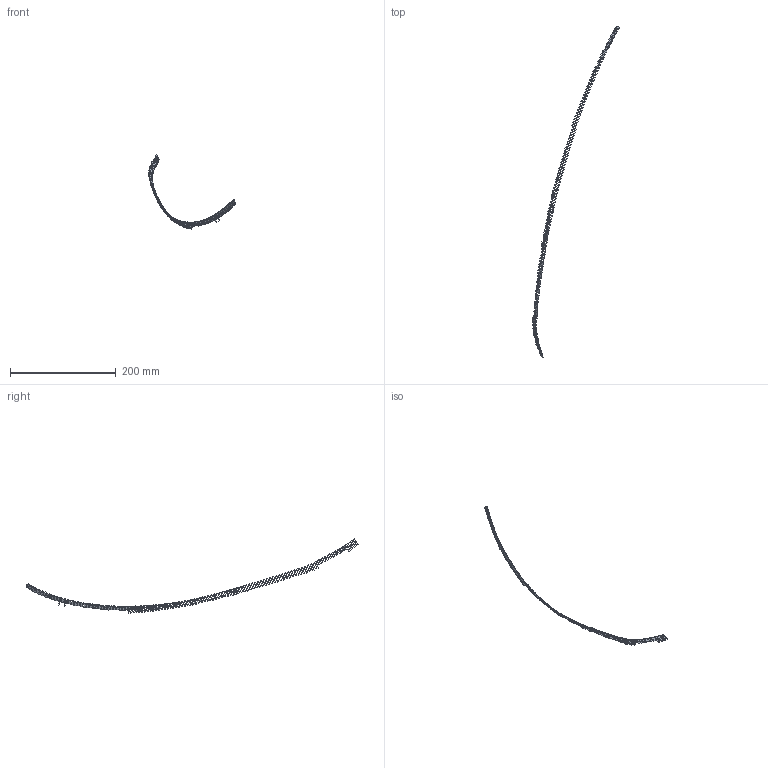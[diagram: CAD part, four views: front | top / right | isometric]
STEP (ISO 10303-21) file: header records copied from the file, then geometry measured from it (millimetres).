
FILE_DESCRIPTION(('FreeCAD Model'),'2;1');
FILE_NAME('Open CASCADE Shape Model','2022-05-22T07:50:18',('FreeCAD'),( 'FreeCAD'),'Open CASCADE STEP processor 7.5','FreeCAD','Unknown');
FILE_SCHEMA(('AUTOMOTIVE_DESIGN { 1 0 10303 214 1 1 1 1 }'));
Length unit declared in the file: millimetre
Products named in the file (224): Open CASCADE STEP translator 7.5 13; Open CASCADE STEP translator 7.5 13.1; Open CASCADE STEP translator 7.5 13.2; Open CASCADE STEP translator 7.5 13.3; Open CASCADE STEP translator 7.5 13.4; Open CASCADE STEP translator 7.5 13.5; Open CASCADE STEP translator 7.5 13.6; Open CASCADE STEP translator 7.5 13.7; Open CASCADE STEP translator 7.5 13.8; Open CASCADE STEP translator 7.5 13.9; Open CASCADE STEP translator 7.5 13.10; Open CASCADE STEP translator 7.5 13.11; Open CASCADE STEP translator 7.5 13.12; Open CASCADE STEP translator 7.5 13.13; Open CASCADE STEP translator 7.5 13.14; Open CASCADE STEP translator 7.5 13.15; Open CASCADE STEP translator 7.5 13.16; Open CASCADE STEP translator 7.5 13.17; Open CASCADE STEP translator 7.5 13.18; Open CASCADE STEP translator 7.5 13.19; Open CASCADE STEP translator 7.5 13.20; Open CASCADE STEP translator 7.5 13.21; Open CASCADE STEP translator 7.5 13.22; Open CASCADE STEP translator 7.5 13.23; Open CASCADE STEP translator 7.5 13.24; Open CASCADE STEP translator 7.5 13.25; Open CASCADE STEP translator 7.5 13.26; Open CASCADE STEP translator 7.5 13.27; Open CASCADE STEP translator 7.5 13.28; Open CASCADE STEP translator 7.5 13.29; Open CASCADE STEP translator 7.5 13.30; Open CASCADE STEP translator 7.5 13.31; Open CASCADE STEP translator 7.5 13.32; Open CASCADE STEP translator 7.5 13.33; Open CASCADE STEP translator 7.5 13.34; Open CASCADE STEP translator 7.5 13.35; Open CASCADE STEP translator 7.5 13.36; Open CASCADE STEP translator 7.5 13.37; Open CASCADE STEP translator 7.5 13.38; Open CASCADE STEP translator 7.5 13.39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
Assembly tree (223 placements, depth 2):
  Open CASCADE STEP translator 7.5 13
    Open CASCADE STEP translator 7.5 13.1
    Open CASCADE STEP translator 7.5 13.2
    Open CASCADE STEP translator 7.5 13.3
    Open CASCADE STEP translator 7.5 13.4
    Open CASCADE STEP translator 7.5 13.5
    Open CASCADE STEP translator 7.5 13.6
    Open CASCADE STEP translator 7.5 13.7
    Open CASCADE STEP translator 7.5 13.8
    Open CASCADE STEP translator 7.5 13.9
    Open CASCADE STEP translator 7.5 13.10
    Open CASCADE STEP translator 7.5 13.11
    Open CASCADE STEP translator 7.5 13.12
    Open CASCADE STEP translator 7.5 13.13
    Open CASCADE STEP translator 7.5 13.14
    Open CASCADE STEP translator 7.5 13.15
    Open CASCADE STEP translator 7.5 13.16
    Open CASCADE STEP translator 7.5 13.17
    Open CASCADE STEP translator 7.5 13.18
    Open CASCADE STEP translator 7.5 13.19
    Open CASCADE STEP translator 7.5 13.20
    Open CASCADE STEP translator 7.5 13.21
    Open CASCADE STEP translator 7.5 13.22
    Open CASCADE STEP translator 7.5 13.23
    Open CASCADE STEP translator 7.5 13.24
    Open CASCADE STEP translator 7.5 13.25
    Open CASCADE STEP translator 7.5 13.26
    Open CASCADE STEP translator 7.5 13.27
    Open CASCADE STEP translator 7.5 13.28
    Open CASCADE STEP translator 7.5 13.29
    Open CASCADE STEP translator 7.5 13.30
    Open CASCADE STEP translator 7.5 13.31
    Open CASCADE STEP translator 7.5 13.32
    Open CASCADE STEP translator 7.5 13.33
    Open CASCADE STEP translator 7.5 13.34
    Open CASCADE STEP translator 7.5 13.35
    Open CASCADE STEP translator 7.5 13.36
    Open CASCADE STEP translator 7.5 13.37
    Open CASCADE STEP translator 7.5 13.38
    Open CASCADE STEP translator 7.5 13.39
    Open CASCADE STEP translator 7.5 13.40
    Open CASCADE STEP translator 7.5 13.41
    Open CASCADE STEP translator 7.5 13.42
    Open CASCADE STEP translator 7.5 13.43
    Open CASCADE STEP translator 7.5 13.44
    Open CASCADE STEP translator 7.5 13.45
    Open CASCADE STEP translator 7.5 13.46
    Open CASCADE STEP translator 7.5 13.47
    Open CASCADE STEP translator 7.5 13.48
    Open CASCADE STEP translator 7.5 13.49
    Open CASCADE STEP translator 7.5 13.50
    Open CASCADE STEP translator 7.5 13.51
    Open CASCADE STEP translator 7.5 13.52
    Open CASCADE STEP translator 7.5 13.53
    Open CASCADE STEP translator 7.5 13.54
    Open CASCADE STEP translator 7.5 13.55
    Open CASCADE STEP translator 7.5 13.56
    Open CASCADE STEP translator 7.5 13.57
    Open CASCADE STEP translator 7.5 13.58
    Open CASCADE STEP translator 7.5 13.59
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Bounding box: 166.06 x 628.75 x 140.73 mm (x, y, z)
Surface area: 7098.1 mm2 (no closed solid volume)
Topology: 0 solids, 223 shells, 223 faces, 3422 edges, 3422 vertices
Faces by surface type: bspline 223
Entity records: 50746 total; most frequent: CARTESIAN_POINT 18226, B_SPLINE_CURVE_WITH_KNOTS 6844, ORIENTED_EDGE 3422, EDGE_CURVE 3422, VERTEX_POINT 3422, SURFACE_CURVE 3422, PCURVE 3422, DEFINITIONAL_REPRESENTATION 3422
